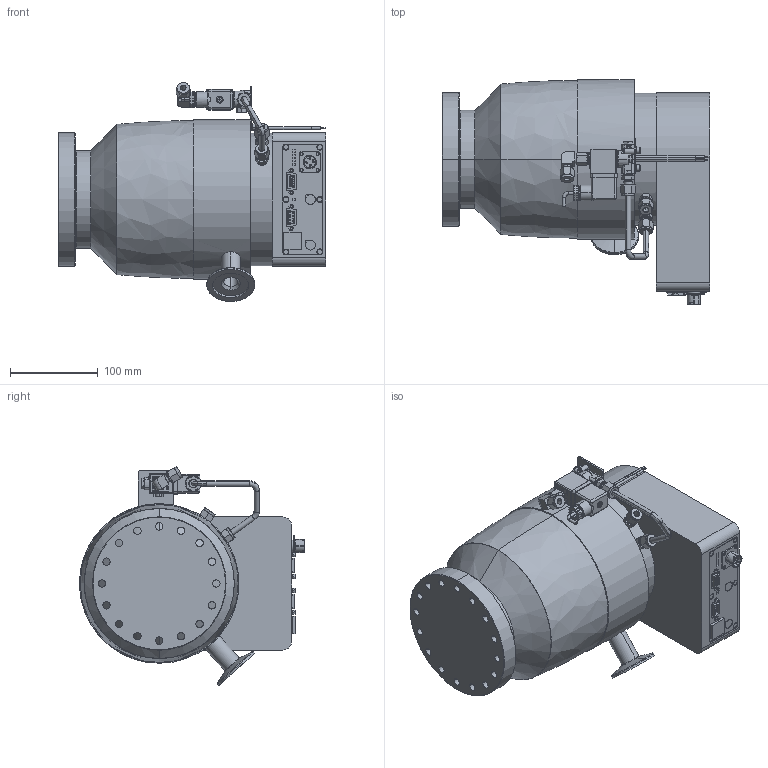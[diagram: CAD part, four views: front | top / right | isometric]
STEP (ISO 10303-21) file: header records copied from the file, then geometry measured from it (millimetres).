
FILE_DESCRIPTION((''),'2;1');
FILE_NAME('ENV-ATH500MT-VR322103','2017-12-21T',('CGAREL'),(''),'PRO/ENGINEER BY PARAMETRIC TECHNOLOGY CORPORATION, 2015280','PRO/ENGINEER BY PARAMETRIC TECHNOLOGY CORPORATION, 2015280','');
FILE_SCHEMA(('CONFIG_CONTROL_DESIGN'));
Products named in the file (1): ENV-ATH500MT-VR322103
Bounding box: 305.09 x 256.75 x 250.1 mm (x, y, z)
Volume: 7326569.1 mm3; surface area: 316886.2 mm2
Topology: 2 solids, 31 shells, 1856 faces, 4703 edges, 3024 vertices
Faces by surface type: plane 983, cylinder 481, cone 226, bspline 122, torus 32, sphere 12
Entity records: 63630 total; most frequent: CARTESIAN_POINT 19281, ORIENTED_EDGE 9318, DIRECTION 8829, EDGE_CURVE 4691, VERTEX_POINT 3024, AXIS2_PLACEMENT_3D 2968, VECTOR 2893, LINE 2893
